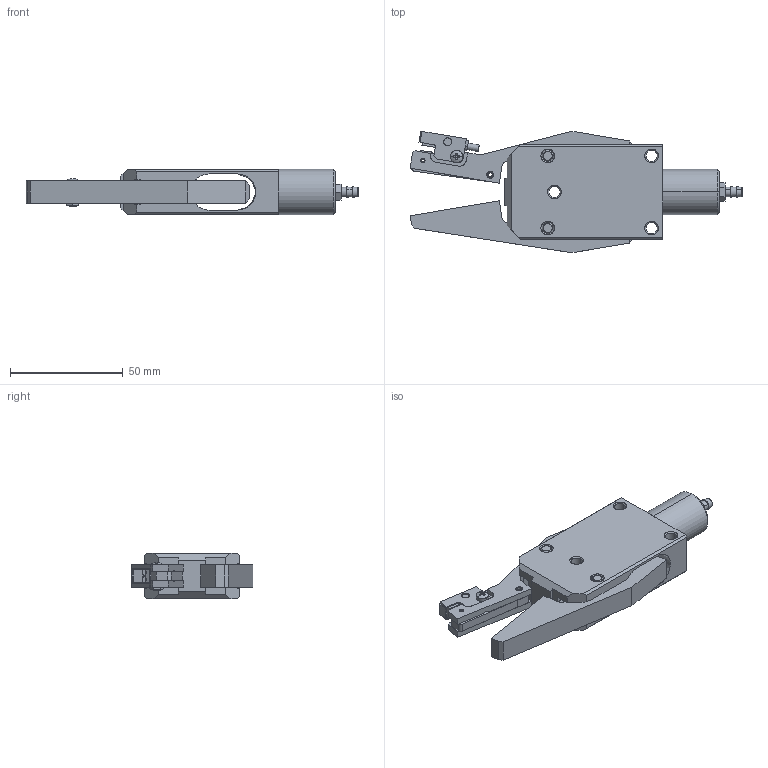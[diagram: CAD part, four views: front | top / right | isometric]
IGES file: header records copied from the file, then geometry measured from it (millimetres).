
Start section: SolidWorks IGES file using analytic representation for surfaces
Global section: file name: E:\2010 カタログ（別冊）\Eins10年4月発売予定新商品データ0311\New CHK-E\CHK-EX1-20-C\023001.IGS; native system: SolidWorks 2006 by SolidWorks Corporation; preprocessor: SolidWorks 2006 by SolidWorks Corporation; author: CAD53; date: 100604.134206; units: millimetre
Bounding box: 146.94 x 53.75 x 20 mm (x, y, z)
Surface area: 24341.3 mm2 (no closed solid volume)
Topology: 0 solids, 0 shells, 269 faces, 3841 edges, 3841 vertices
Faces by surface type: bspline 151, revolution 118
